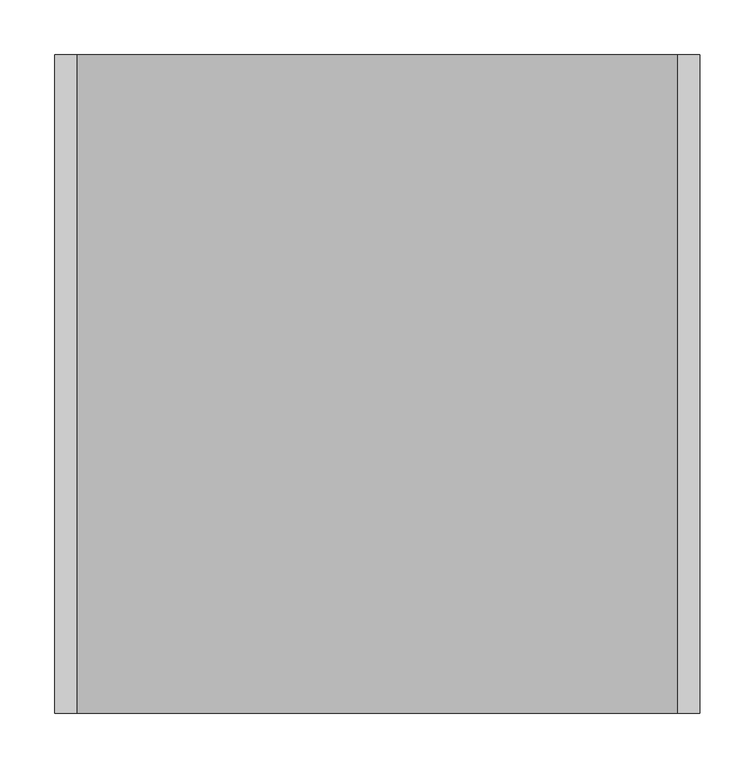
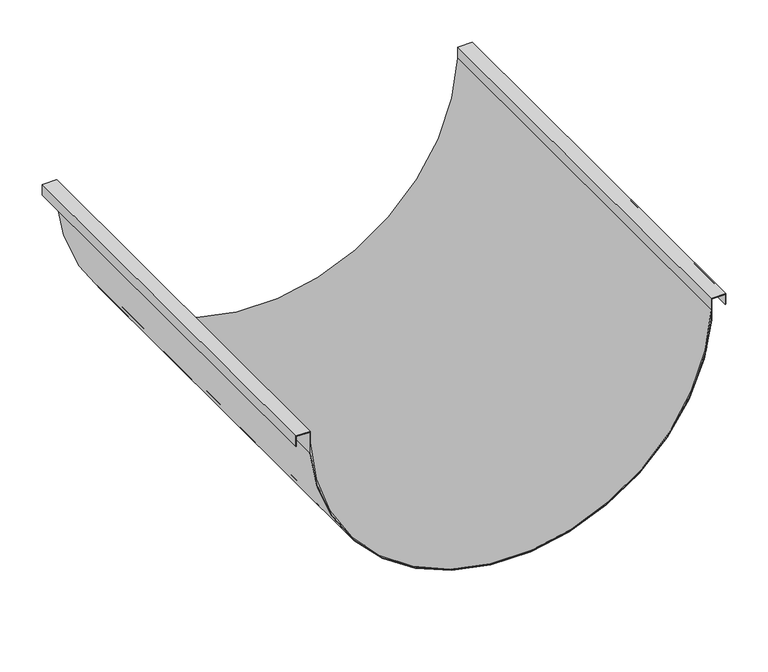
"""IFC4 building model written with IfcOpenShell, lengths in millimetres: proxy geometry, durlum_S5_DOMUS_panel : durlum_S5_DOMUS_panel_wall_length_cut."""

from ifc_helpers import new_model, si_unit, point, frame, frame_2d, origin, place, context, project, spatial, polyline, circle_curve, trimmed, segment, composite_curve, outline, extrude, source, transform, mapped, element, save


def generic_models_35db3c34(model_context):
    return source(origin(), model_context, "Body", "SweptSolid", [
        extrude(outline(composite_curve([segment(polyline([(0.0472082, 273.75), (14.8707737, 273.75)]), True, "CONTINUOUS"), segment(trimmed(circle_curve(frame_2d((25.975125, 0.0)), 273.975125), [point((14.8707737, 273.75))], [point((14.8707737, -273.75))], True, "CARTESIAN"), True, "CONTINUOUS"), segment(polyline([(14.8707737, -273.75), (0.0472082, -273.75)]), True, "CONTINUOUS"), segment(trimmed(circle_curve(frame_2d((25.975125, 0.0)), 274.975125), [point((0.0472082, -273.75))], [point((0.0472082, 273.75))], False, "CARTESIAN"), True, "CONTINUOUS")], self_intersect=False)), frame((0.0, -299.75, 0.0), z_axis=(0.0, 1.0, 0.0), x_axis=(0.0, 0.0, 1.0)), (0.0, 0.0, 1.0), 599.5),
        extrude(outline(polyline([(30.0, -274.75), (0.0, -274.75), (0.0, -273.75), (31.0, -273.75), (31.0, -293.75), (16.0, -293.75), (16.0, -292.75), (30.0, -292.75), (30.0, -274.75)])), frame((0.0, -299.75, 0.0), z_axis=(0.0, 1.0, 0.0), x_axis=(0.0, 0.0, 1.0)), (0.0, 0.0, 1.0), 599.5),
        extrude(outline(polyline([(30.0, 274.75), (30.0, 292.75), (16.0, 292.75), (16.0, 293.75), (31.0, 293.75), (31.0, 273.75), (0.0, 273.75), (0.0, 274.75), (30.0, 274.75)])), frame((0.0, -299.75, 0.0), z_axis=(0.0, 1.0, 0.0), x_axis=(0.0, 0.0, 1.0)), (0.0, 0.0, 1.0), 599.5),
        extrude(outline(composite_curve([segment(trimmed(circle_curve(frame_2d((25.975125, 0.0)), 275.975125), [point((0.0, -274.75))], [point((0.0, 274.75))], False, "CARTESIAN"), True, "CONTINUOUS"), segment(polyline([(0.0, 274.75), (14.8505185, 274.75)]), True, "CONTINUOUS"), segment(trimmed(circle_curve(frame_2d((25.975125, 0.0)), 274.975125), [point((14.8505185, 274.75))], [point((14.8505185, -274.75))], True, "CARTESIAN"), True, "CONTINUOUS"), segment(polyline([(14.8505185, -274.75), (0.0, -274.75)]), True, "CONTINUOUS")], self_intersect=False)), frame((0.0, -299.75, 0.0), z_axis=(0.0, 1.0, 0.0), x_axis=(0.0, 0.0, 1.0)), (0.0, 0.0, 1.0), 599.5),
    ])


if __name__ == "__main__":
    model = new_model("IFC4")
    model_context = context("Model", 3, world=origin())
    ifc_project = project(units=[si_unit("LENGTHUNIT", "METRE", prefix="MILLI")], contexts=[model_context])
    site = spatial("IfcSite", under=ifc_project)
    building = spatial("IfcBuilding", under=site)
    placement = place(None, origin())
    generic_models_shape = generic_models_35db3c34(model_context)
    element("IfcBuildingElementProxy", 1, Name="durlum_S5_DOMUS_panel : durlum_S5_DOMUS_panel_wall_length_cut", ObjectType="durlum_S5_DOMUS_panel : durlum_S5_DOMUS_panel_wall_length_cut", at=placement, inside=building, context=model_context, shape_type="MappedRepresentation", body=[
        mapped(generic_models_shape, transform((0.0, 0.0, 0.0), x_axis=(1.0, 0.0, 0.0), y_axis=(0.0, 1.0, 0.0), z_axis=(0.0, 0.0, 1.0))),
    ])
    save(model, "model.ifc")
